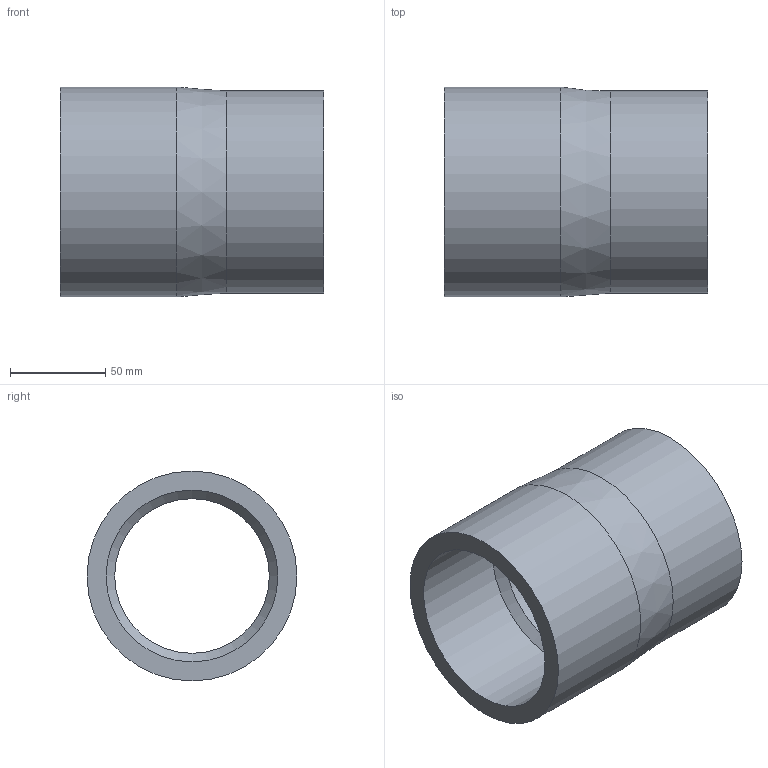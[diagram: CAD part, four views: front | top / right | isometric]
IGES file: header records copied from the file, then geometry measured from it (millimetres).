
Global section: file name: 050200110090.ipt; native system: Autodesk Inventor 2015; preprocessor: unknown; author: KIM; date: 20171207.164228; units: millimetre
Bounding box: 138 x 110 x 110 mm (x, y, z)
Volume: 430898.2 mm3; surface area: 92289.5 mm2
Topology: 1 solids, 1 shells, 10 faces, 23 edges, 16 vertices
Faces by surface type: revolution 4, plane 3, cylinder 2, cone 1
Full cylindrical faces by diameter (mm): 106 x1, 110 x1
